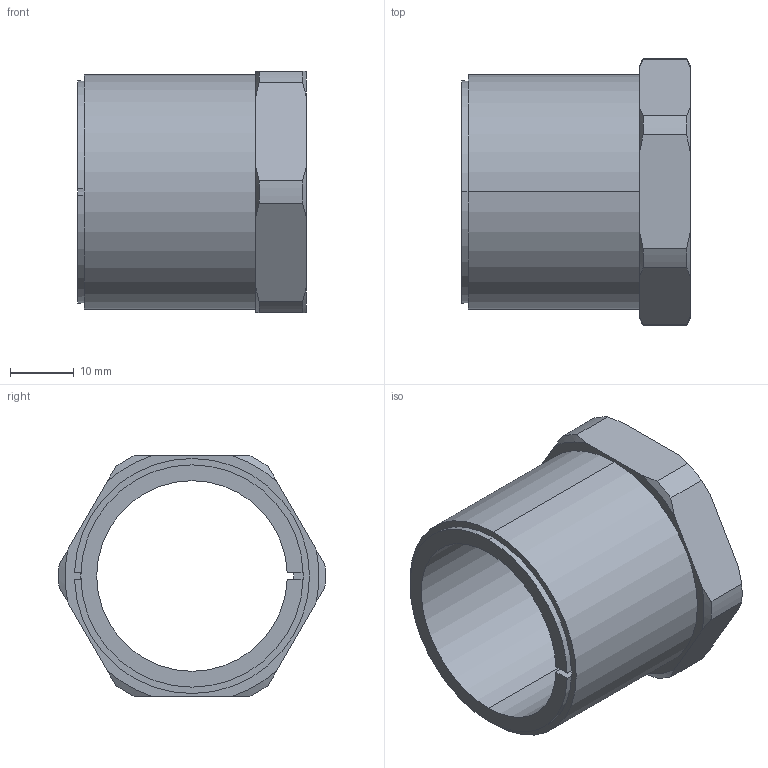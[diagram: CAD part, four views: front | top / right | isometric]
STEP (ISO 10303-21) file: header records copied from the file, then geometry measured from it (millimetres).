
FILE_DESCRIPTION (( 'STEP AP203' ), '1' );
FILE_NAME ('KBS 57 - 30 x 37.STEP', '2015-07-05T18:36:05', ( '' ), ( '' ), 'SwSTEP 2.0', 'SolidWorks 2010', '' );
FILE_SCHEMA (( 'CONFIG_CONTROL_DESIGN' ));
Length unit declared in the file: millimetre
Products named in the file (1): KBS 57 - 30 x 37
Bounding box: 36 x 41.98 x 38 mm (x, y, z)
Volume: 14241.5 mm3; surface area: 8941.7 mm2
Topology: 1 solids, 1 shells, 47 faces, 130 edges, 86 vertices
Faces by surface type: cylinder 16, plane 16, cone 15
Entity records: 1633 total; most frequent: CARTESIAN_POINT 348, ORIENTED_EDGE 260, DIRECTION 252, EDGE_CURVE 130, AXIS2_PLACEMENT_3D 100, VERTEX_POINT 86, LINE 52, CIRCLE 52
